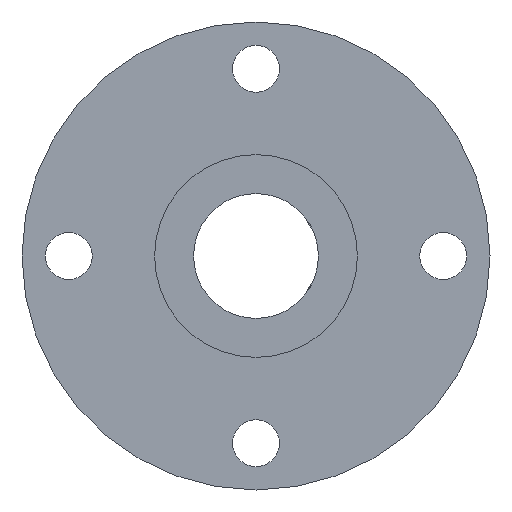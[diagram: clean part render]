
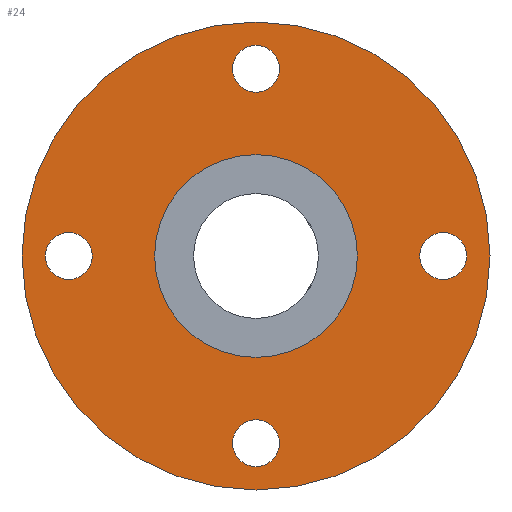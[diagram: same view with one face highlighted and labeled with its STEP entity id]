
A CAD part, front view. The second image highlights one B-rep face of the part: STEP entity #24.
In plain terms, the highlighted planar face has unit normal (0, -1, 0).
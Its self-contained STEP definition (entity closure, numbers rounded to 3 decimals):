
#2 = AXIS2_PLACEMENT_3D ( 'NONE', #223, #493, #148 ) ;
#9 = DIRECTION ( 'NONE',  ( 0., 1., 0. ) ) ;
#24 = ADVANCED_FACE ( 'NONE', ( #840, #82, #227, #494, #505, #295 ), #283, .F. ) ;
#40 = ORIENTED_EDGE ( 'NONE', *, *, #88, .T. ) ;
#45 = VERTEX_POINT ( 'NONE', #105 ) ;
#54 = VERTEX_POINT ( 'NONE', #373 ) ;
#60 = CIRCLE ( 'NONE', #741, 1.5 ) ;
#64 = EDGE_CURVE ( 'NONE', #845, #54, #585, .T. ) ;
#65 = CARTESIAN_POINT ( 'NONE',  ( 0., 0., 10.5 ) ) ;
#70 = ORIENTED_EDGE ( 'NONE', *, *, #485, .T. ) ;
#71 = AXIS2_PLACEMENT_3D ( 'NONE', #226, #9, #623 ) ;
#79 = DIRECTION ( 'NONE',  ( 0., 1., 0. ) ) ;
#82 = FACE_BOUND ( 'NONE', #279, .T. ) ;
#86 = AXIS2_PLACEMENT_3D ( 'NONE', #437, #142, #238 ) ;
#88 = EDGE_CURVE ( 'NONE', #740, #620, #112, .T. ) ;
#94 = DIRECTION ( 'NONE',  ( 0., 0., 1. ) ) ;
#105 = CARTESIAN_POINT ( 'NONE',  ( 12., 0., 1.5 ) ) ;
#108 = CARTESIAN_POINT ( 'NONE',  ( 0., 0., -12. ) ) ;
#109 = CARTESIAN_POINT ( 'NONE',  ( 0., 0., -13.5 ) ) ;
#112 = CIRCLE ( 'NONE', #802, 1.5 ) ;
#114 = AXIS2_PLACEMENT_3D ( 'NONE', #108, #435, #235 ) ;
#126 = DIRECTION ( 'NONE',  ( 0., 1., 0. ) ) ;
#138 = DIRECTION ( 'NONE',  ( 0., 0., 1. ) ) ;
#142 = DIRECTION ( 'NONE',  ( 0., -1., 0. ) ) ;
#148 = DIRECTION ( 'NONE',  ( 0., 0., -1. ) ) ;
#152 = ORIENTED_EDGE ( 'NONE', *, *, #314, .T. ) ;
#153 = EDGE_CURVE ( 'NONE', #208, #45, #487, .T. ) ;
#154 = ORIENTED_EDGE ( 'NONE', *, *, #64, .T. ) ;
#161 = ORIENTED_EDGE ( 'NONE', *, *, #380, .T. ) ;
#166 = DIRECTION ( 'NONE',  ( 0., 0., 1. ) ) ;
#174 = VERTEX_POINT ( 'NONE', #109 ) ;
#177 = ORIENTED_EDGE ( 'NONE', *, *, #182, .T. ) ;
#182 = EDGE_CURVE ( 'NONE', #620, #740, #859, .T. ) ;
#200 = CARTESIAN_POINT ( 'NONE',  ( 0., 0., 12. ) ) ;
#208 = VERTEX_POINT ( 'NONE', #813 ) ;
#215 = DIRECTION ( 'NONE',  ( 0., 1., 0. ) ) ;
#221 = CARTESIAN_POINT ( 'NONE',  ( 0., 0., 15. ) ) ;
#223 = CARTESIAN_POINT ( 'NONE',  ( 0., 0., 0. ) ) ;
#226 = CARTESIAN_POINT ( 'NONE',  ( 0., 0., 0. ) ) ;
#227 = FACE_BOUND ( 'NONE', #267, .T. ) ;
#235 = DIRECTION ( 'NONE',  ( 0., 0., 1. ) ) ;
#238 = DIRECTION ( 'NONE',  ( 0., 0., -1. ) ) ;
#250 = DIRECTION ( 'NONE',  ( 0., 1., 0. ) ) ;
#263 = CARTESIAN_POINT ( 'NONE',  ( -12., 0., 1.5 ) ) ;
#267 = EDGE_LOOP ( 'NONE', ( #154, #718 ) ) ;
#279 = EDGE_LOOP ( 'NONE', ( #40, #177 ) ) ;
#283 = PLANE ( 'NONE',  #559 ) ;
#289 = CARTESIAN_POINT ( 'NONE',  ( 0., 0., -6.5 ) ) ;
#295 = FACE_OUTER_BOUND ( 'NONE', #296, .T. ) ;
#296 = EDGE_LOOP ( 'NONE', ( #814, #475 ) ) ;
#311 = EDGE_LOOP ( 'NONE', ( #161, #610 ) ) ;
#313 = AXIS2_PLACEMENT_3D ( 'NONE', #351, #767, #138 ) ;
#314 = EDGE_CURVE ( 'NONE', #771, #174, #60, .T. ) ;
#332 = DIRECTION ( 'NONE',  ( 0., 0., 1. ) ) ;
#351 = CARTESIAN_POINT ( 'NONE',  ( 12., 0., 0. ) ) ;
#352 = EDGE_LOOP ( 'NONE', ( #793, #408 ) ) ;
#358 = CIRCLE ( 'NONE', #474, 15. ) ;
#370 = VERTEX_POINT ( 'NONE', #221 ) ;
#373 = CARTESIAN_POINT ( 'NONE',  ( -12., 0., -1.5 ) ) ;
#374 = VERTEX_POINT ( 'NONE', #289 ) ;
#380 = EDGE_CURVE ( 'NONE', #45, #208, #697, .T. ) ;
#387 = DIRECTION ( 'NONE',  ( 0., 0., 1. ) ) ;
#389 = EDGE_LOOP ( 'NONE', ( #152, #70 ) ) ;
#405 = EDGE_CURVE ( 'NONE', #374, #629, #499, .T. ) ;
#408 = ORIENTED_EDGE ( 'NONE', *, *, #784, .F. ) ;
#411 = AXIS2_PLACEMENT_3D ( 'NONE', #200, #126, #664 ) ;
#418 = EDGE_CURVE ( 'NONE', #490, #370, #501, .T. ) ;
#429 = CARTESIAN_POINT ( 'NONE',  ( 0., 0., -12. ) ) ;
#435 = DIRECTION ( 'NONE',  ( 0., 1., 0. ) ) ;
#437 = CARTESIAN_POINT ( 'NONE',  ( 0., 0., 0. ) ) ;
#439 = CARTESIAN_POINT ( 'NONE',  ( -12., 0., 0. ) ) ;
#455 = AXIS2_PLACEMENT_3D ( 'NONE', #780, #250, #166 ) ;
#474 = AXIS2_PLACEMENT_3D ( 'NONE', #587, #790, #94 ) ;
#475 = ORIENTED_EDGE ( 'NONE', *, *, #500, .F. ) ;
#485 = EDGE_CURVE ( 'NONE', #174, #771, #876, .T. ) ;
#487 = CIRCLE ( 'NONE', #455, 1.5 ) ;
#488 = CARTESIAN_POINT ( 'NONE',  ( 0., 0., 0. ) ) ;
#490 = VERTEX_POINT ( 'NONE', #705 ) ;
#493 = DIRECTION ( 'NONE',  ( 0., -1., 0. ) ) ;
#494 = FACE_BOUND ( 'NONE', #389, .T. ) ;
#499 = CIRCLE ( 'NONE', #2, 6.5 ) ;
#500 = EDGE_CURVE ( 'NONE', #370, #490, #358, .T. ) ;
#501 = CIRCLE ( 'NONE', #71, 15. ) ;
#505 = FACE_BOUND ( 'NONE', #352, .T. ) ;
#520 = DIRECTION ( 'NONE',  ( 0., 1., 0. ) ) ;
#523 = DIRECTION ( 'NONE',  ( 0., 0., 1. ) ) ;
#556 = DIRECTION ( 'NONE',  ( 0., 0., 1. ) ) ;
#559 = AXIS2_PLACEMENT_3D ( 'NONE', #488, #79, #556 ) ;
#585 = CIRCLE ( 'NONE', #755, 1.5 ) ;
#587 = CARTESIAN_POINT ( 'NONE',  ( 0., 0., 0. ) ) ;
#588 = CIRCLE ( 'NONE', #86, 6.5 ) ;
#589 = CARTESIAN_POINT ( 'NONE',  ( 0., 0., 12. ) ) ;
#605 = DIRECTION ( 'NONE',  ( 0., 1., 0. ) ) ;
#610 = ORIENTED_EDGE ( 'NONE', *, *, #153, .T. ) ;
#618 = CARTESIAN_POINT ( 'NONE',  ( 0., 0., -10.5 ) ) ;
#620 = VERTEX_POINT ( 'NONE', #65 ) ;
#623 = DIRECTION ( 'NONE',  ( 0., 0., 1. ) ) ;
#625 = EDGE_CURVE ( 'NONE', #54, #845, #768, .T. ) ;
#629 = VERTEX_POINT ( 'NONE', #885 ) ;
#664 = DIRECTION ( 'NONE',  ( 0., 0., 1. ) ) ;
#697 = CIRCLE ( 'NONE', #313, 1.5 ) ;
#705 = CARTESIAN_POINT ( 'NONE',  ( 0., 0., -15. ) ) ;
#718 = ORIENTED_EDGE ( 'NONE', *, *, #625, .T. ) ;
#727 = AXIS2_PLACEMENT_3D ( 'NONE', #878, #605, #332 ) ;
#740 = VERTEX_POINT ( 'NONE', #750 ) ;
#741 = AXIS2_PLACEMENT_3D ( 'NONE', #429, #215, #834 ) ;
#750 = CARTESIAN_POINT ( 'NONE',  ( 0., 0., 13.5 ) ) ;
#755 = AXIS2_PLACEMENT_3D ( 'NONE', #439, #520, #523 ) ;
#767 = DIRECTION ( 'NONE',  ( 0., 1., 0. ) ) ;
#768 = CIRCLE ( 'NONE', #727, 1.5 ) ;
#771 = VERTEX_POINT ( 'NONE', #618 ) ;
#780 = CARTESIAN_POINT ( 'NONE',  ( 12., 0., 0. ) ) ;
#784 = EDGE_CURVE ( 'NONE', #629, #374, #588, .T. ) ;
#790 = DIRECTION ( 'NONE',  ( 0., 1., 0. ) ) ;
#793 = ORIENTED_EDGE ( 'NONE', *, *, #405, .F. ) ;
#799 = DIRECTION ( 'NONE',  ( 0., 1., 0. ) ) ;
#802 = AXIS2_PLACEMENT_3D ( 'NONE', #589, #799, #387 ) ;
#813 = CARTESIAN_POINT ( 'NONE',  ( 12., 0., -1.5 ) ) ;
#814 = ORIENTED_EDGE ( 'NONE', *, *, #418, .F. ) ;
#834 = DIRECTION ( 'NONE',  ( 0., 0., 1. ) ) ;
#840 = FACE_BOUND ( 'NONE', #311, .T. ) ;
#845 = VERTEX_POINT ( 'NONE', #263 ) ;
#859 = CIRCLE ( 'NONE', #411, 1.5 ) ;
#876 = CIRCLE ( 'NONE', #114, 1.5 ) ;
#878 = CARTESIAN_POINT ( 'NONE',  ( -12., 0., 0. ) ) ;
#885 = CARTESIAN_POINT ( 'NONE',  ( 0., 0., 6.5 ) ) ;
